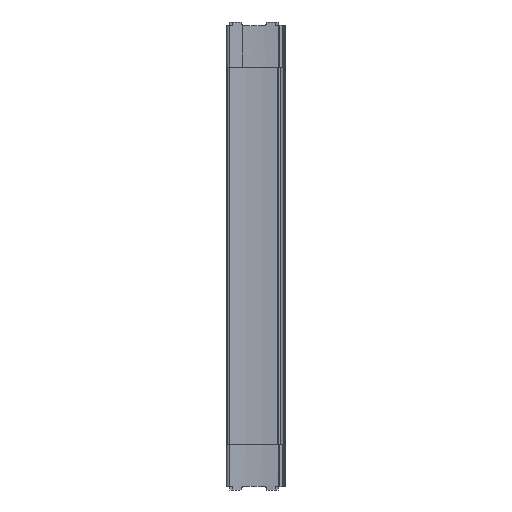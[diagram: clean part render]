
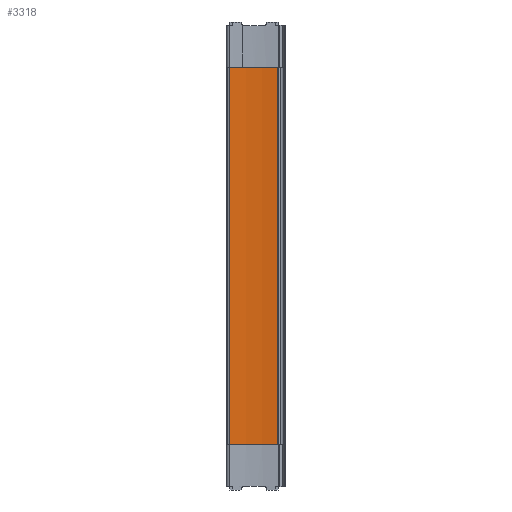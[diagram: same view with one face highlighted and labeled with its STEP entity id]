
A CAD part, left-side view. The second image highlights one B-rep face of the part: STEP entity #3318.
In plain terms, the highlighted cylindrical face has radius 250 mm (diameter 500 mm), a partial arc.
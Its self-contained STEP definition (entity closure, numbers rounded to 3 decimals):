
#12 = VERTEX_POINT ( 'NONE', #101 ) ;
#36 = CARTESIAN_POINT ( 'NONE',  ( -8.643, 8.331, 214.3 ) ) ;
#71 = VERTEX_POINT ( 'NONE', #36 ) ;
#101 = CARTESIAN_POINT ( 'NONE',  ( -5.747, 63.571, 214.3 ) ) ;
#167 = CARTESIAN_POINT ( 'NONE',  ( -5.747, 63.571, -214.3 ) ) ;
#267 = VERTEX_POINT ( 'NONE', #167 ) ;
#307 = VERTEX_POINT ( 'NONE', #491 ) ;
#491 = CARTESIAN_POINT ( 'NONE',  ( -8.643, 8.331, -214.3 ) ) ;
#831 = CARTESIAN_POINT ( 'NONE',  ( -255.319, 48.963, 214.3 ) ) ;
#839 = DIRECTION ( 'NONE',  ( 0., 0., -1. ) ) ;
#840 = DIRECTION ( 'NONE',  ( 1., 0., 0. ) ) ;
#902 = CARTESIAN_POINT ( 'NONE',  ( -5.747, 63.571, 220.3 ) ) ;
#910 = DIRECTION ( 'NONE',  ( 0., 0., -1. ) ) ;
#975 = CARTESIAN_POINT ( 'NONE',  ( -8.643, 8.331, 220.3 ) ) ;
#987 = DIRECTION ( 'NONE',  ( 0., 0., -1. ) ) ;
#1041 = DIRECTION ( 'NONE',  ( -1., 0., 0. ) ) ;
#1042 = DIRECTION ( 'NONE',  ( 0., 0., -1. ) ) ;
#1043 = CARTESIAN_POINT ( 'NONE',  ( -255.319, 48.963, 220.3 ) ) ;
#1781 = CYLINDRICAL_SURFACE ( 'NONE', #3722, 250. ) ;
#1783 = FACE_OUTER_BOUND ( 'NONE', #2165, .T. ) ;
#1823 = VECTOR ( 'NONE', #987, 1000. ) ;
#1826 = LINE ( 'NONE', #975, #1823 ) ;
#1846 = LINE ( 'NONE', #902, #1853 ) ;
#1853 = VECTOR ( 'NONE', #910, 1000. ) ;
#1882 = CIRCLE ( 'NONE', #3687, 250. ) ;
#2165 = EDGE_LOOP ( 'NONE', ( #2503, #2502, #2501, #2500 ) ) ;
#2500 = ORIENTED_EDGE ( 'NONE', *, *, #3280, .T. ) ;
#2501 = ORIENTED_EDGE ( 'NONE', *, *, #3252, .F. ) ;
#2502 = ORIENTED_EDGE ( 'NONE', *, *, #3299, .F. ) ;
#2503 = ORIENTED_EDGE ( 'NONE', *, *, #3468, .F. ) ;
#2875 = CIRCLE ( 'NONE', #3083, 250. ) ;
#3083 = AXIS2_PLACEMENT_3D ( 'NONE', #3969, #3974, #3975 ) ;
#3252 = EDGE_CURVE ( 'NONE', #12, #71, #1882, .T. ) ;
#3280 = EDGE_CURVE ( 'NONE', #12, #267, #1846, .T. ) ;
#3299 = EDGE_CURVE ( 'NONE', #71, #307, #1826, .T. ) ;
#3318 = ADVANCED_FACE ( 'NONE', ( #1783 ), #1781, .F. ) ;
#3468 = EDGE_CURVE ( 'NONE', #307, #267, #2875, .T. ) ;
#3687 = AXIS2_PLACEMENT_3D ( 'NONE', #831, #839, #840 ) ;
#3722 = AXIS2_PLACEMENT_3D ( 'NONE', #1043, #1042, #1041 ) ;
#3969 = CARTESIAN_POINT ( 'NONE',  ( -255.319, 48.963, -214.3 ) ) ;
#3974 = DIRECTION ( 'NONE',  ( 0., 0., 1. ) ) ;
#3975 = DIRECTION ( 'NONE',  ( -1., 0., 0. ) ) ;
